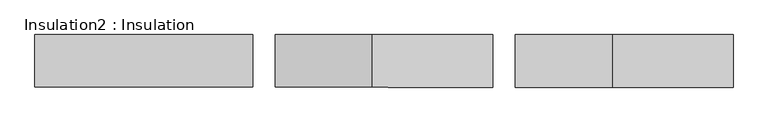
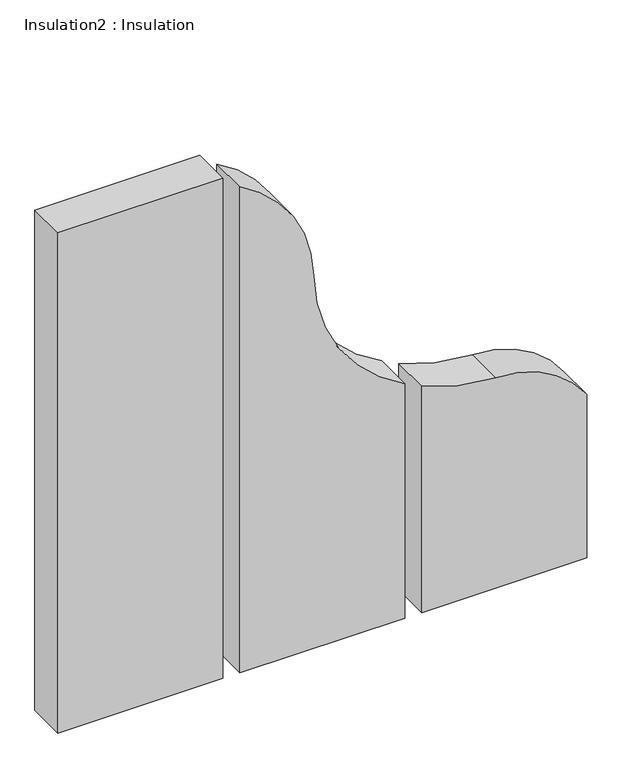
"""IFC4 building model written with IfcOpenShell, lengths in millimetres: proxy geometry, Insulation2 : Insulation."""

from ifc_helpers import new_model, si_unit, point, frame, frame_2d, origin, place, context, project, spatial, polyline, circle_curve, trimmed, segment, composite_curve, outline, extrude, source, transform, mapped, element, save


def insulation2_insulation_0980dc73(model_context):
    return source(origin(), model_context, "Body", "SweptSolid", [
        extrude(outline(polyline([(2621.1820282, 34387.2421435), (2252.8820282, 34387.2421435), (2252.8820282, 34476.1421435), (2621.1820282, 34476.1421435), (2621.1820282, 34387.2421435)])), frame((0.0, 0.0, 38.1), z_axis=(0.0, 0.0, 1.0), x_axis=(1.0, 0.0, 0.0)), (0.0, 0.0, 1.0), 1181.1),
        extrude(outline(composite_curve([segment(polyline([(38.1, 2659.2820282), (38.1, 3027.5820282), (591.8706469, 3027.5820282)]), True, "CONTINUOUS"), segment(trimmed(circle_curve(frame_2d((925.1337293, 3198.344238)), 374.4649709), [point((591.8706469, 3027.5820282))], [point((918.4023164, 2823.9397742))], True, "CARTESIAN"), True, "CONTINUOUS"), segment(trimmed(circle_curve(frame_2d((912.871688, 2516.3235252)), 307.6659626), [point((918.4023164, 2823.9397742))], [point((1185.3073886, 2659.2820282))], False, "CARTESIAN"), True, "CONTINUOUS"), segment(polyline([(1185.3073886, 2659.2820282), (38.1, 2659.2820282)]), True, "CONTINUOUS")], self_intersect=False)), frame((0.0, 34387.2421435, 0.0), z_axis=(0.0, 1.0, 0.0), x_axis=(0.0, 0.0, 1.0)), (0.0, 0.0, 1.0), 88.9),
        extrude(outline(composite_curve([segment(polyline([(38.1, 3065.6820282), (38.1, 3433.9820282), (424.2455858, 3433.9820282)]), True, "CONTINUOUS"), segment(trimmed(circle_curve(frame_2d((286.9857554, 3226.7717143)), 248.5485369), [point((424.2455858, 3433.9820282))], [point((535.510358, 3230.2209323))], False, "CARTESIAN"), True, "CONTINUOUS"), segment(trimmed(circle_curve(frame_2d((948.5891228, 3235.9539612)), 413.1185466), [point((535.510358, 3230.2209323))], [point((572.1925203, 3065.6820282))], True, "CARTESIAN"), True, "CONTINUOUS"), segment(polyline([(572.1925203, 3065.6820282), (38.1, 3065.6820282)]), True, "CONTINUOUS")], self_intersect=False)), frame((0.0, 34387.2421435, 0.0), z_axis=(0.0, 1.0, 0.0), x_axis=(0.0, 0.0, 1.0)), (0.0, 0.0, 1.0), 88.9),
    ])


if __name__ == "__main__":
    model = new_model("IFC4")
    model_context = context("Model", 3, world=origin())
    ifc_project = project(units=[si_unit("LENGTHUNIT", "METRE", prefix="MILLI")], contexts=[model_context])
    site = spatial("IfcSite", under=ifc_project)
    building = spatial("IfcBuilding", under=site)
    placement = place(None, origin())
    insulation2_insulation_shape = insulation2_insulation_0980dc73(model_context)
    element("IfcBuildingElementProxy", 1, Name="Insulation2 : Insulation", ObjectType="Insulation2 : Insulation", at=placement, inside=building, context=model_context, shape_type="MappedRepresentation", body=[
        mapped(insulation2_insulation_shape, transform((0.0, 0.0, 0.0), x_axis=(1.0, 0.0, 0.0), y_axis=(0.0, 1.0, 0.0), z_axis=(0.0, 0.0, 1.0))),
    ])
    save(model, "model.ifc")
